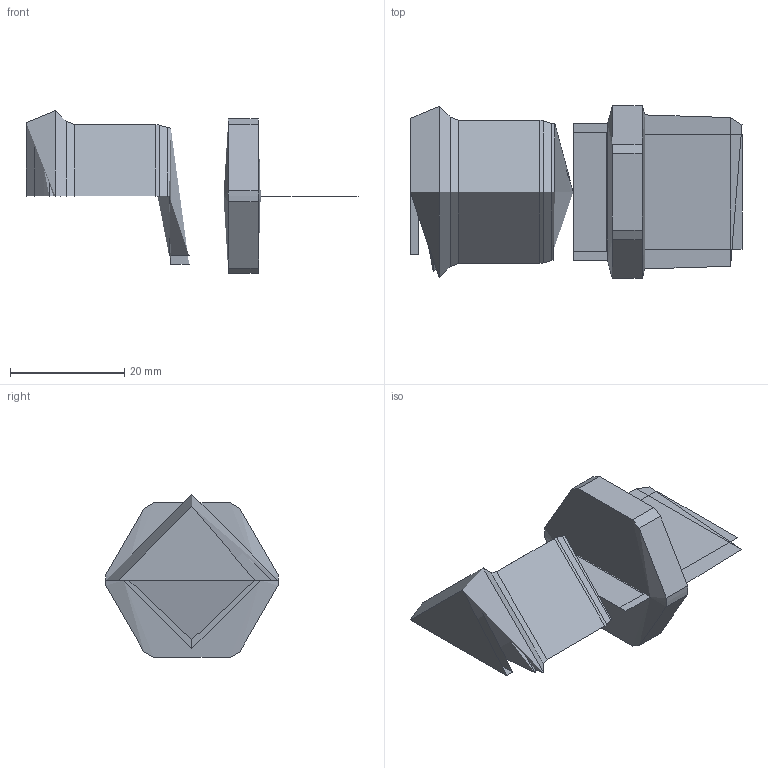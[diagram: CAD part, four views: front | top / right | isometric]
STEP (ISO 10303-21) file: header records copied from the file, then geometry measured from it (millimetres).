
FILE_DESCRIPTION(('FreeCAD Model'),'2;1');
FILE_NAME('Open CASCADE Shape Model','2025-10-20T15:01:32',('Author'),( ''),'Open CASCADE STEP processor 7.8','FreeCAD','Unknown');
FILE_SCHEMA(('AUTOMOTIVE_DESIGN { 1 0 10303 214 1 1 1 1 }'));
Length unit declared in the file: millimetre
Products named in the file (7): Unnamed167; COMPOUND; COMPOUND001; X-Achse; XY-Ebene; COMPOUND002; COMPOUND003
Assembly tree (18 placements, depth 3):
  Unnamed167
    COMPOUND
    COMPOUND001
      COMPOUND
    X-Achse  x6
    XY-Ebene  x6
    COMPOUND002
    COMPOUND003
      COMPOUND002
Bounding box: 58 x 30.11 x 28.47 mm (x, y, z)
Volume: 20347.2 mm3; surface area: 19871.7 mm2
Topology: 4 solids, 4 shells, 80 faces, 252 edges, 176 vertices
Faces by surface type: bspline 80
Entity records: 1986 total; most frequent: CARTESIAN_POINT 1128, ORIENTED_EDGE 246, EDGE_CURVE 123, VERTEX_POINT 88, FACE_BOUND 45, EDGE_LOOP 45, ADVANCED_FACE 40, DIRECTION 39
